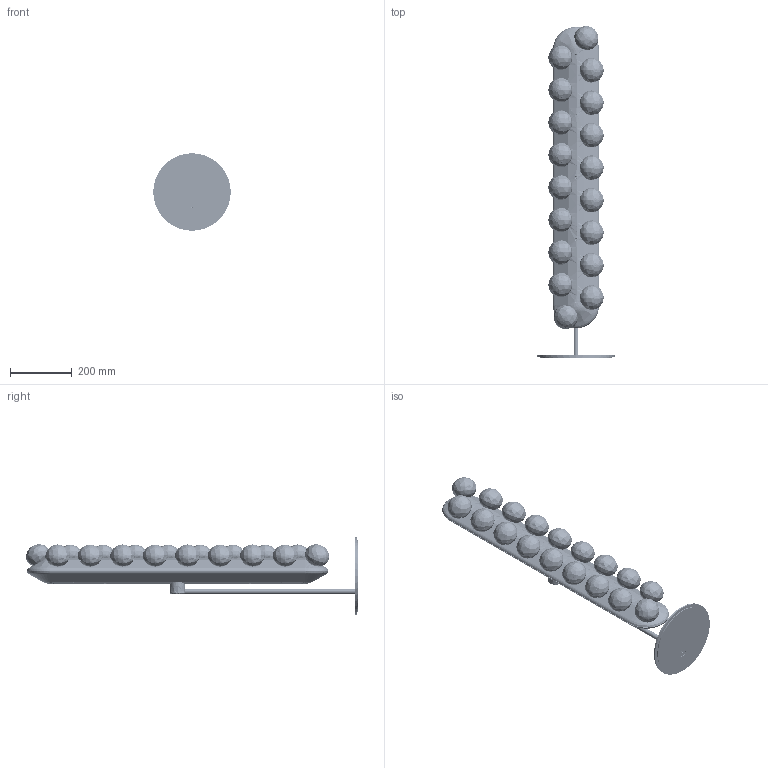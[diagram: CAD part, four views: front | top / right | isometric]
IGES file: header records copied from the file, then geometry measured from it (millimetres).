
Start section: SolidWorks IGES file using analytic representation for surfaces
Global section: file name: P:\Corporate Identity\4_Product_Content\2d3ddag_2014\Prop Light Floor\3D\Proplight_4000_floor.IGS; native system: SolidWorks 2014; preprocessor: SolidWorks 2014; author: PaulPD; date: 140828.121137; units: millimetre
Bounding box: 250 x 1073.15 x 250 mm (x, y, z)
Surface area: 1594193.8 mm2 (no closed solid volume)
Topology: 0 solids, 0 shells, 1874 faces, 33016 edges, 32916 vertices
Faces by surface type: bspline 1178, revolution 696
